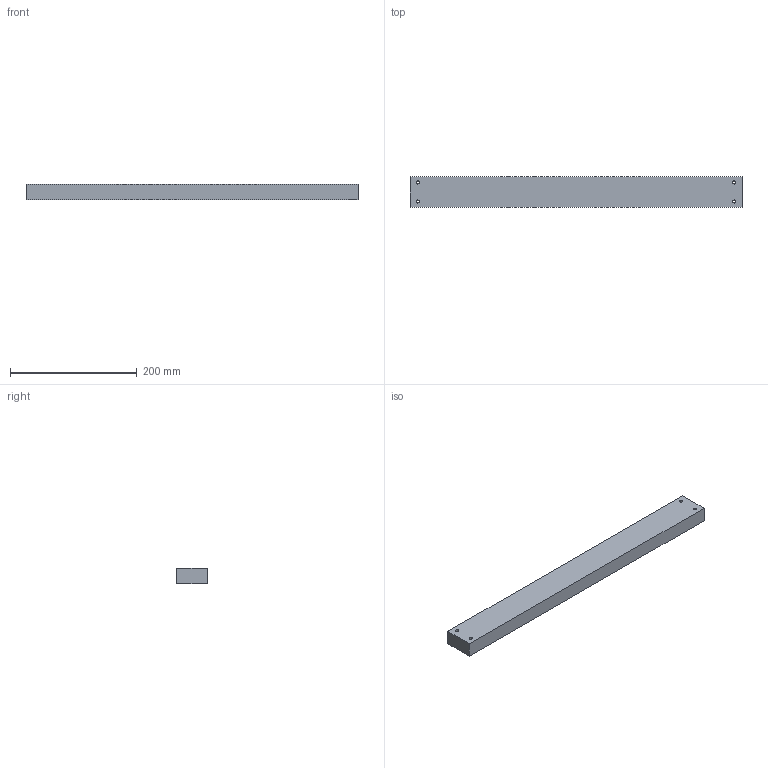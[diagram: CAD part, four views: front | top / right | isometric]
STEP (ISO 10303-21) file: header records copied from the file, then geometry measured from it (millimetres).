
FILE_DESCRIPTION (( 'STEP AP203' ), '1' );
FILE_NAME ('Tasseau_524_Cadre_Deflecteur.STEP', '2026-06-24T07:29:50', ( '' ), ( '' ), 'SwSTEP 2.0', 'SolidWorks 2024', '' );
FILE_SCHEMA (( 'CONFIG_CONTROL_DESIGN' ));
Length unit declared in the file: millimetre
Products named in the file (1): Tasseau_524_Cadre_Deflecteur_Percé
Bounding box: 524 x 48 x 24 mm (x, y, z)
Volume: 601763 mm3; surface area: 79110.9 mm2
Topology: 1 solids, 1 shells, 10 faces, 24 edges, 16 vertices
Faces by surface type: plane 6, cylinder 4
Full cylindrical faces by diameter (mm): 5 x4
Entity records: 367 total; most frequent: DIRECTION 50, CARTESIAN_POINT 47, ORIENTED_EDGE 40, EDGE_LOOP 22, EDGE_CURVE 20, AXIS2_PLACEMENT_3D 19, VERTEX_POINT 16, FACE_OUTER_BOUND 14
